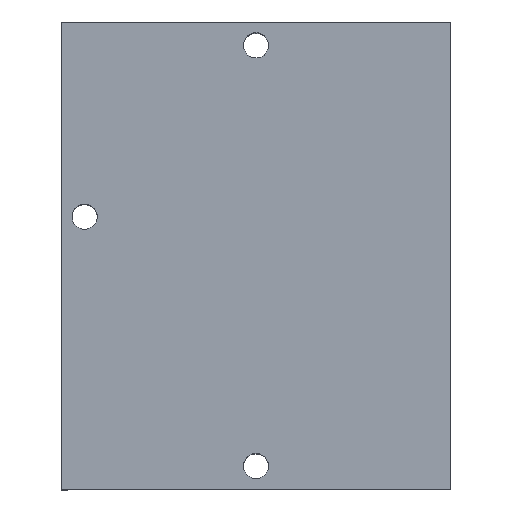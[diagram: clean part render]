
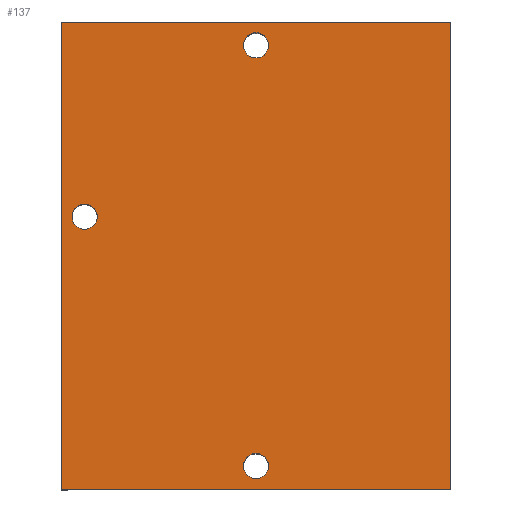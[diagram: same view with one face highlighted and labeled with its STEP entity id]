
A CAD part, top view. The second image highlights one B-rep face of the part: STEP entity #137.
In plain terms, the highlighted planar face has unit normal (0, 0, 1).
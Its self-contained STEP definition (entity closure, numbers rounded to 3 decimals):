
#66 = EDGE_CURVE ( 'NONE', #1502, #1436, #2695, .T. ) ;
#76 = EDGE_CURVE ( 'NONE', #1757, #1739, #2734, .T. ) ;
#83 = EDGE_CURVE ( 'NONE', #1736, #1683, #2701, .T. ) ;
#137 = ADVANCED_FACE ( 'NONE', ( #2818, #2817, #2816, #2815 ), #2814, .T. ) ;
#138 = EDGE_LOOP ( 'NONE', ( #139, #142, #197, #199 ) ) ;
#139 = ORIENTED_EDGE ( 'NONE', *, *, #140, .F. ) ;
#140 = EDGE_CURVE ( 'NONE', #141, #152, #2876, .T. ) ;
#141 = VERTEX_POINT ( 'NONE', #2872 ) ;
#142 = ORIENTED_EDGE ( 'NONE', *, *, #143, .F. ) ;
#143 = EDGE_CURVE ( 'NONE', #144, #141, #2871, .T. ) ;
#144 = VERTEX_POINT ( 'NONE', #2867 ) ;
#152 = VERTEX_POINT ( 'NONE', #2856 ) ;
#154 = EDGE_CURVE ( 'NONE', #155, #152, #2855, .T. ) ;
#155 = VERTEX_POINT ( 'NONE', #2851 ) ;
#197 = ORIENTED_EDGE ( 'NONE', *, *, #198, .F. ) ;
#198 = EDGE_CURVE ( 'NONE', #155, #144, #2935, .T. ) ;
#199 = ORIENTED_EDGE ( 'NONE', *, *, #154, .T. ) ;
#200 = EDGE_LOOP ( 'NONE', ( #201, #202 ) ) ;
#201 = ORIENTED_EDGE ( 'NONE', *, *, #1435, .T. ) ;
#202 = ORIENTED_EDGE ( 'NONE', *, *, #66, .T. ) ;
#203 = EDGE_LOOP ( 'NONE', ( #204, #205 ) ) ;
#204 = ORIENTED_EDGE ( 'NONE', *, *, #1799, .T. ) ;
#205 = ORIENTED_EDGE ( 'NONE', *, *, #83, .T. ) ;
#206 = EDGE_LOOP ( 'NONE', ( #207, #208 ) ) ;
#207 = ORIENTED_EDGE ( 'NONE', *, *, #1741, .T. ) ;
#208 = ORIENTED_EDGE ( 'NONE', *, *, #76, .T. ) ;
#1435 = EDGE_CURVE ( 'NONE', #1436, #1502, #5435, .T. ) ;
#1436 = VERTEX_POINT ( 'NONE', #5430 ) ;
#1502 = VERTEX_POINT ( 'NONE', #5627 ) ;
#1683 = VERTEX_POINT ( 'NONE', #6087 ) ;
#1736 = VERTEX_POINT ( 'NONE', #6178 ) ;
#1739 = VERTEX_POINT ( 'NONE', #6177 ) ;
#1741 = EDGE_CURVE ( 'NONE', #1739, #1757, #6169, .T. ) ;
#1757 = VERTEX_POINT ( 'NONE', #6232 ) ;
#1799 = EDGE_CURVE ( 'NONE', #1683, #1736, #6312, .T. ) ;
#2660 = CARTESIAN_POINT ( 'NONE',  ( 4.517, -58.375, 50. ) ) ;
#2691 = DIRECTION ( 'NONE',  ( 1., 0., 0. ) ) ;
#2692 = DIRECTION ( 'NONE',  ( 0., 0., -1. ) ) ;
#2693 = CARTESIAN_POINT ( 'NONE',  ( 4.517, -4.375, 50. ) ) ;
#2694 = AXIS2_PLACEMENT_3D ( 'NONE', #2693, #2692, #2691 ) ;
#2695 = CIRCLE ( 'NONE', #2694, 1.621 ) ;
#2696 = CARTESIAN_POINT ( 'NONE',  ( -17.483, -26.375, 50. ) ) ;
#2697 = AXIS2_PLACEMENT_3D ( 'NONE', #2696, #2754, #2753 ) ;
#2701 = CIRCLE ( 'NONE', #2697, 1.621 ) ;
#2731 = DIRECTION ( 'NONE',  ( 1., 0., 0. ) ) ;
#2732 = DIRECTION ( 'NONE',  ( 0., 0., -1. ) ) ;
#2733 = AXIS2_PLACEMENT_3D ( 'NONE', #2660, #2732, #2731 ) ;
#2734 = CIRCLE ( 'NONE', #2733, 1.621 ) ;
#2753 = DIRECTION ( 'NONE',  ( 1., 0., 0. ) ) ;
#2754 = DIRECTION ( 'NONE',  ( 0., 0., -1. ) ) ;
#2810 = DIRECTION ( 'NONE',  ( 1., 0., 0. ) ) ;
#2811 = DIRECTION ( 'NONE',  ( 0., 0., 1. ) ) ;
#2812 = CARTESIAN_POINT ( 'NONE',  ( -2.806, -19.053, 50. ) ) ;
#2813 = AXIS2_PLACEMENT_3D ( 'NONE', #2812, #2811, #2810 ) ;
#2814 = PLANE ( 'NONE',  #2813 ) ;
#2815 = FACE_BOUND ( 'NONE', #206, .T. ) ;
#2816 = FACE_BOUND ( 'NONE', #203, .T. ) ;
#2817 = FACE_BOUND ( 'NONE', #200, .T. ) ;
#2818 = FACE_OUTER_BOUND ( 'NONE', #138, .T. ) ;
#2851 = CARTESIAN_POINT ( 'NONE',  ( -20.483, -1.375, 50. ) ) ;
#2852 = DIRECTION ( 'NONE',  ( 0., -1., 0. ) ) ;
#2853 = VECTOR ( 'NONE', #2852, 1000. ) ;
#2854 = CARTESIAN_POINT ( 'NONE',  ( -20.483, -19.053, 50. ) ) ;
#2855 = LINE ( 'NONE', #2854, #2853 ) ;
#2856 = CARTESIAN_POINT ( 'NONE',  ( -20.483, -61.375, 50. ) ) ;
#2867 = CARTESIAN_POINT ( 'NONE',  ( 29.517, -1.375, 50. ) ) ;
#2868 = DIRECTION ( 'NONE',  ( 0., -1., 0. ) ) ;
#2869 = VECTOR ( 'NONE', #2868, 1000. ) ;
#2870 = CARTESIAN_POINT ( 'NONE',  ( 29.517, -1.375, 50. ) ) ;
#2871 = LINE ( 'NONE', #2870, #2869 ) ;
#2872 = CARTESIAN_POINT ( 'NONE',  ( 29.517, -61.375, 50. ) ) ;
#2873 = DIRECTION ( 'NONE',  ( -1., 0., 0. ) ) ;
#2874 = VECTOR ( 'NONE', #2873, 1000. ) ;
#2875 = CARTESIAN_POINT ( 'NONE',  ( 29.517, -61.375, 50. ) ) ;
#2876 = LINE ( 'NONE', #2875, #2874 ) ;
#2932 = DIRECTION ( 'NONE',  ( 1., 0., 0. ) ) ;
#2933 = VECTOR ( 'NONE', #2932, 1000. ) ;
#2934 = CARTESIAN_POINT ( 'NONE',  ( -20.483, -1.375, 50. ) ) ;
#2935 = LINE ( 'NONE', #2934, #2933 ) ;
#5430 = CARTESIAN_POINT ( 'NONE',  ( 6.138, -4.375, 50. ) ) ;
#5431 = DIRECTION ( 'NONE',  ( 1., 0., 0. ) ) ;
#5432 = DIRECTION ( 'NONE',  ( 0., 0., -1. ) ) ;
#5433 = CARTESIAN_POINT ( 'NONE',  ( 4.517, -4.375, 50. ) ) ;
#5434 = AXIS2_PLACEMENT_3D ( 'NONE', #5433, #5432, #5431 ) ;
#5435 = CIRCLE ( 'NONE', #5434, 1.621 ) ;
#5627 = CARTESIAN_POINT ( 'NONE',  ( 2.896, -4.375, 50. ) ) ;
#6087 = CARTESIAN_POINT ( 'NONE',  ( -15.862, -26.375, 50. ) ) ;
#6166 = DIRECTION ( 'NONE',  ( 1., 0., 0. ) ) ;
#6167 = DIRECTION ( 'NONE',  ( 0., 0., -1. ) ) ;
#6168 = AXIS2_PLACEMENT_3D ( 'NONE', #6176, #6167, #6166 ) ;
#6169 = CIRCLE ( 'NONE', #6168, 1.621 ) ;
#6176 = CARTESIAN_POINT ( 'NONE',  ( 4.517, -58.375, 50. ) ) ;
#6177 = CARTESIAN_POINT ( 'NONE',  ( 6.138, -58.375, 50. ) ) ;
#6178 = CARTESIAN_POINT ( 'NONE',  ( -19.104, -26.375, 50. ) ) ;
#6232 = CARTESIAN_POINT ( 'NONE',  ( 2.896, -58.375, 50. ) ) ;
#6308 = DIRECTION ( 'NONE',  ( 1., 0., 0. ) ) ;
#6309 = DIRECTION ( 'NONE',  ( 0., 0., -1. ) ) ;
#6310 = CARTESIAN_POINT ( 'NONE',  ( -17.483, -26.375, 50. ) ) ;
#6311 = AXIS2_PLACEMENT_3D ( 'NONE', #6310, #6309, #6308 ) ;
#6312 = CIRCLE ( 'NONE', #6311, 1.621 ) ;
